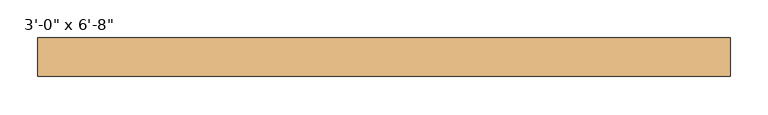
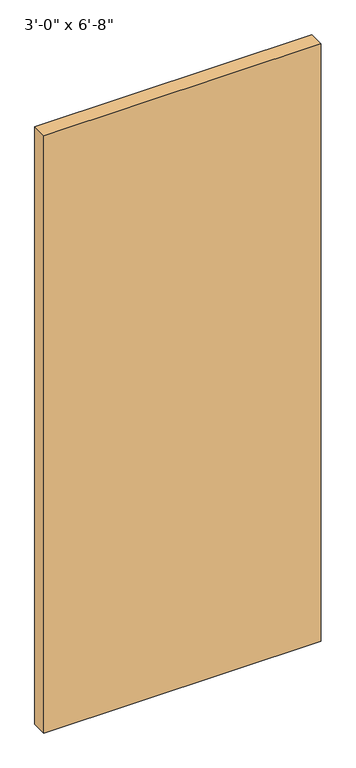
"""IFC4 building model written with IfcOpenShell, lengths in millimetres: door geometry."""

from ifc_helpers import new_model, si_unit, origin, origin_with_axes, place, context, project, spatial, polyline, outline, extrude, source, transform, mapped, element, save


def door_dec22b3d(model_context):
    return source(origin(), model_context, "Body", "SweptSolid", [
        extrude(outline(polyline([(457.2, -44.25), (457.2, -95.25), (-457.2, -95.25), (-457.2, -44.25), (457.2, -44.25)])), origin_with_axes(), (0.0, 0.0, 1.0), 2082.8),
    ])


if __name__ == "__main__":
    model = new_model("IFC4")
    model_context = context("Model", 3, world=origin())
    ifc_project = project(units=[si_unit("LENGTHUNIT", "METRE", prefix="MILLI")], contexts=[model_context])
    site = spatial("IfcSite", under=ifc_project)
    building = spatial("IfcBuilding", under=site)
    placement = place(None, origin())
    door_shape = door_dec22b3d(model_context)
    element("IfcDoor", 1, ObjectType="Planitar - Single Door_Flush Panel : 3'-0\" x 6'-8\"", at=placement, inside=building, context=model_context, shape_type="MappedRepresentation", body=[
        mapped(door_shape, transform((0.0, 0.0, 0.0), x_axis=(1.0, 0.0, 0.0), y_axis=(0.0, 1.0, 0.0), z_axis=(0.0, 0.0, 1.0))),
    ])
    save(model, "model.ifc")
